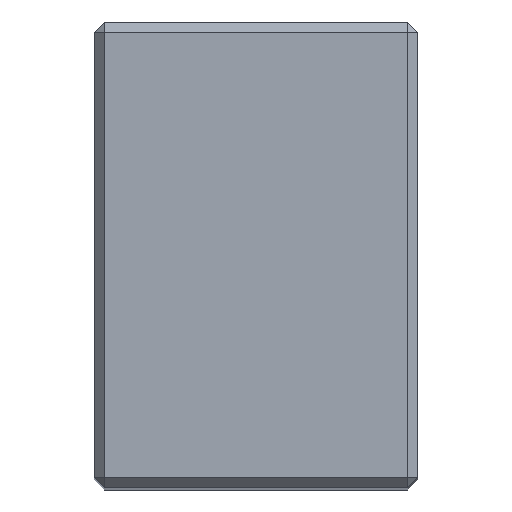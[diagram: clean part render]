
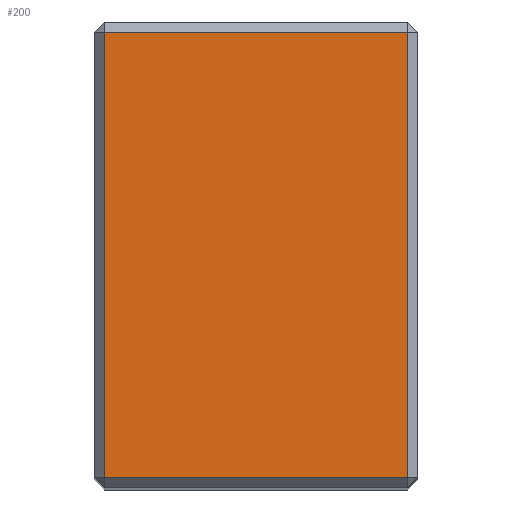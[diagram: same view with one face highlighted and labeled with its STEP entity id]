
A CAD part, top view. The second image highlights one B-rep face of the part: STEP entity #200.
In plain terms, the highlighted planar face has unit normal (0, 0, 1).
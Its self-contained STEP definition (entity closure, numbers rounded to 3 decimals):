
#27 = EDGE_LOOP ( 'NONE', ( #489, #44, #397, #272 ) ) ;
#44 = ORIENTED_EDGE ( 'NONE', *, *, #330, .T. ) ;
#59 = CARTESIAN_POINT ( 'NONE',  ( -16., 45., 78. ) ) ;
#61 = LINE ( 'NONE', #377, #575 ) ;
#64 = VERTEX_POINT ( 'NONE', #293 ) ;
#105 = DIRECTION ( 'NONE',  ( -1., 0., 0. ) ) ;
#107 = EDGE_CURVE ( 'NONE', #371, #463, #331, .T. ) ;
#178 = VECTOR ( 'NONE', #410, 1000. ) ;
#180 = DIRECTION ( 'NONE',  ( 0., 0., -1. ) ) ;
#183 = PLANE ( 'NONE',  #236 ) ;
#200 = ADVANCED_FACE ( 'NONE', ( #586 ), #183, .F. ) ;
#228 = EDGE_CURVE ( 'NONE', #363, #64, #315, .T. ) ;
#236 = AXIS2_PLACEMENT_3D ( 'NONE', #440, #180, #609 ) ;
#272 = ORIENTED_EDGE ( 'NONE', *, *, #583, .T. ) ;
#293 = CARTESIAN_POINT ( 'NONE',  ( 15., 1., 78. ) ) ;
#315 = LINE ( 'NONE', #356, #178 ) ;
#330 = EDGE_CURVE ( 'NONE', #463, #363, #61, .T. ) ;
#331 = LINE ( 'NONE', #59, #563 ) ;
#356 = CARTESIAN_POINT ( 'NONE',  ( 16., 1., 78. ) ) ;
#363 = VERTEX_POINT ( 'NONE', #542 ) ;
#367 = CARTESIAN_POINT ( 'NONE',  ( 15., 46., 78. ) ) ;
#371 = VERTEX_POINT ( 'NONE', #461 ) ;
#377 = CARTESIAN_POINT ( 'NONE',  ( -15., 46., 78. ) ) ;
#381 = LINE ( 'NONE', #367, #506 ) ;
#397 = ORIENTED_EDGE ( 'NONE', *, *, #228, .T. ) ;
#410 = DIRECTION ( 'NONE',  ( 1., 0., 0. ) ) ;
#414 = DIRECTION ( 'NONE',  ( 0., 1., 0. ) ) ;
#440 = CARTESIAN_POINT ( 'NONE',  ( 16., 46., 78. ) ) ;
#461 = CARTESIAN_POINT ( 'NONE',  ( 15., 45., 78. ) ) ;
#463 = VERTEX_POINT ( 'NONE', #473 ) ;
#473 = CARTESIAN_POINT ( 'NONE',  ( -15., 45., 78. ) ) ;
#479 = DIRECTION ( 'NONE',  ( 0., -1., 0. ) ) ;
#489 = ORIENTED_EDGE ( 'NONE', *, *, #107, .T. ) ;
#506 = VECTOR ( 'NONE', #414, 1000. ) ;
#542 = CARTESIAN_POINT ( 'NONE',  ( -15., 1., 78. ) ) ;
#563 = VECTOR ( 'NONE', #105, 1000. ) ;
#575 = VECTOR ( 'NONE', #479, 1000. ) ;
#583 = EDGE_CURVE ( 'NONE', #64, #371, #381, .T. ) ;
#586 = FACE_OUTER_BOUND ( 'NONE', #27, .T. ) ;
#609 = DIRECTION ( 'NONE',  ( -1., 0., 0. ) ) ;
